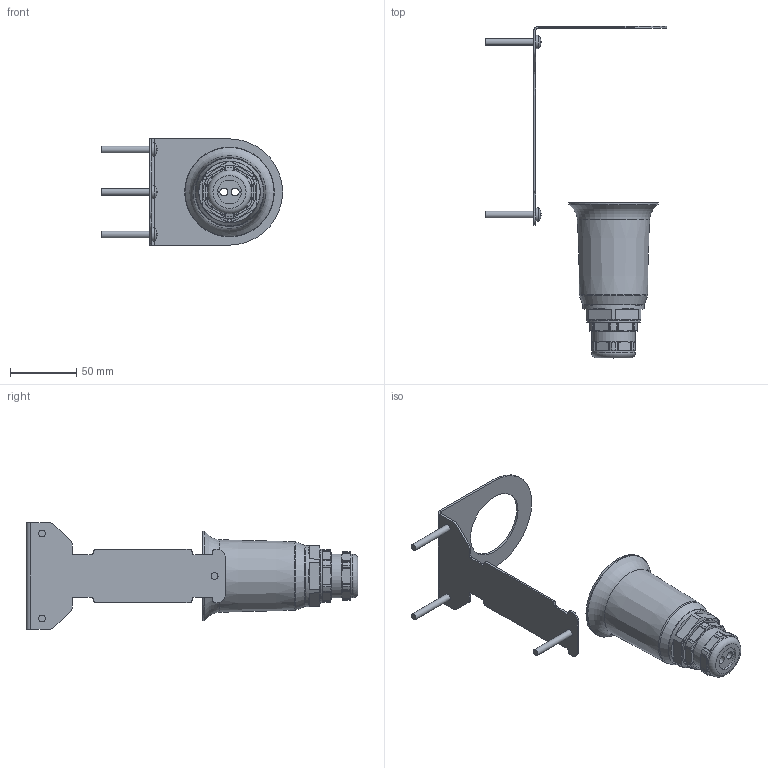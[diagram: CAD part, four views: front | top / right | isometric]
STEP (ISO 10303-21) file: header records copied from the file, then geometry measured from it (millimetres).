
FILE_DESCRIPTION(/* description */ ('STEP AP203'),/* implementation_level */ '2;1');
FILE_NAME(/* name */ 'E90001',/* time_stamp */ '2024-07-01T11:12:52+02:00',/* author */ ('License CC BY-ND 4.0'),/* organization */ ('CADENAS'),/* preprocessor_version */ 'ST-DEVELOPER v19.3',/* originating_system */ 'PARTsolutions',/* authorisation */ ' ');
FILE_SCHEMA (('CONFIG_CONTROL_DESIGN'));
Length unit declared in the file: millimetre
Products named in the file (3): E90001; P_MZ_Z_1931_P1; P_MZ_Z_1931_P2
Assembly tree (2 placements, depth 2):
  E90001
    P_MZ_Z_1931_P1
    P_MZ_Z_1931_P2
Bounding box: 136.5 x 250 x 80 mm (x, y, z)
Volume: 99865.2 mm3; surface area: 65075.4 mm2
Topology: 2 solids, 2 shells, 264 faces, 701 edges, 455 vertices
Faces by surface type: plane 129, cylinder 84, cone 35, torus 14, sphere 2
Full cylindrical faces by diameter (mm): 2.9 x3, 5 x3, 5.2 x3, 10 x3, 18 x1, 33 x2, 50.7 x1, 67.6 x1
Entity records: 9224 total; most frequent: CARTESIAN_POINT 2054, ORIENTED_EDGE 1278, DIRECTION 1138, EDGE_CURVE 639, AXIS2_PLACEMENT_3D 440, VERTEX_POINT 435, EDGE_LOOP 324, FACE_BOUND 324
